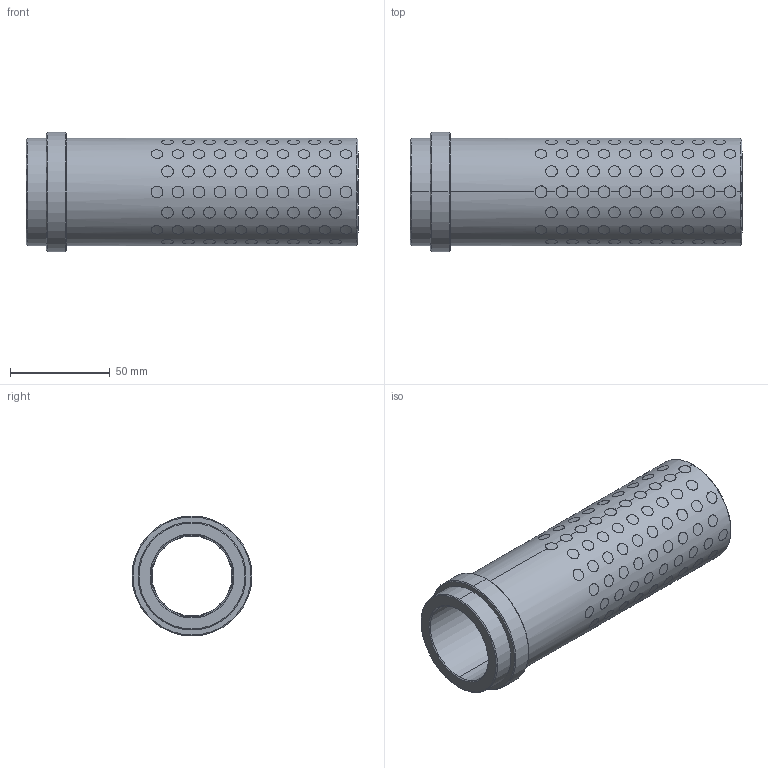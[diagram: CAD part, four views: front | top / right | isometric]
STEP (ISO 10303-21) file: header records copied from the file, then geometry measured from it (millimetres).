
FILE_DESCRIPTION((''),'2;1');
FILE_NAME('G31240156','2017-12-31T',('MANU'),(''),'PRO/ENGINEER BY PARAMETRIC TECHNOLOGY CORPORATION, 2012130','PRO/ENGINEER BY PARAMETRIC TECHNOLOGY CORPORATION, 2012130','');
FILE_SCHEMA(('CONFIG_CONTROL_DESIGN'));
Products named in the file (1): G31240156
Bounding box: 166 x 60 x 60 mm (x, y, z)
Volume: 172507.5 mm3; surface area: 92223.1 mm2
Topology: 153 solids, 153 shells, 939 faces, 1998 edges, 1328 vertices
Faces by surface type: cylinder 922, cone 12, plane 5
Entity records: 49478 total; most frequent: CARTESIAN_POINT 31261, ORIENTED_EDGE 3996, DIRECTION 2612, EDGE_CURVE 1998, VERTEX_POINT 1328, B_SPLINE_CURVE_WITH_KNOTS 1296, EDGE_LOOP 1208, AXIS2_PLACEMENT_3D 971
